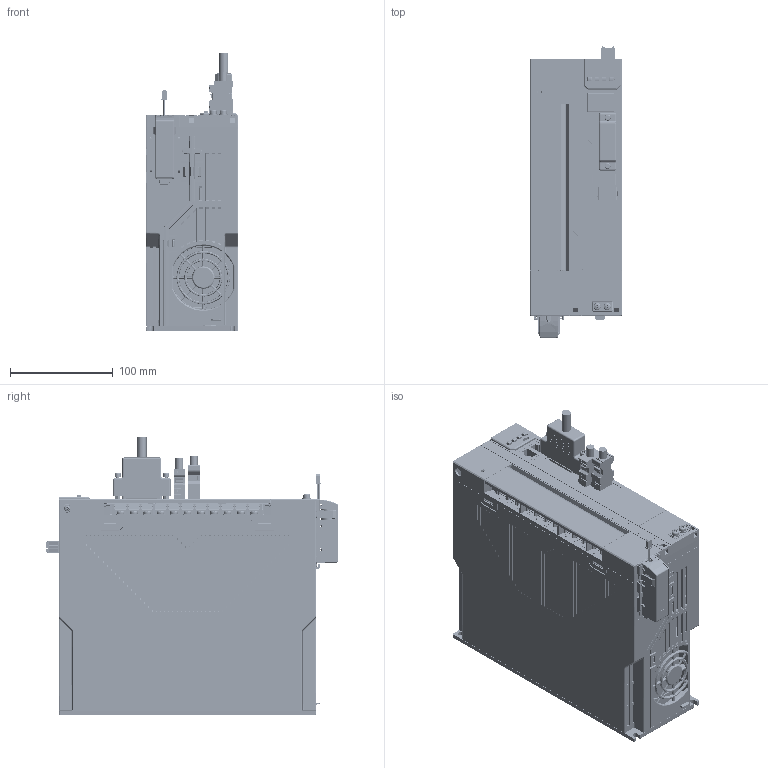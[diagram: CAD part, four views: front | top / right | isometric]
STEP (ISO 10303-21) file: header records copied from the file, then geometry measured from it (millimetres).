
FILE_DESCRIPTION((''),'2;1');
FILE_NAME('SD900-300D-PA_ASM','2025-09-28T',('v5489'),(''),'CREO PARAMETRIC BY PTC INC, 2018360','CREO PARAMETRIC BY PTC INC, 2018360','');
FILE_SCHEMA(('AP203_CONFIGURATION_CONTROLLED_3D_DESIGN_OF_MECHANICAL_PARTS_AND_ASSEMBLIES_MIM_LF { 1 0 10303 403 2 1 2 }'));
Products named in the file (18): 00-SD900-300D-PA_ASM_1_1; 00-SD900-300D-PA_ASM_1_2; 00-SD900-300D-PA_ASM_1_3; 00-SD900-300D-PA_ASM_1_ASM; SD900-DCH-P001_284; SD900-DCH-N001_98; 14505_50_1; 14505_50_2; 14505_50_3; 14505_50_ASM; S6-C4A_31; SD900-DCH-P_ASM_535_ASM; SD900-DCH-P_ASM_ASM; 5006540609; 1394SM_10P_; DB-44-1; 15EDGKNH-3_5-04P-14-00A_H_; SD900-300D-PA_ASM
Assembly tree (17 placements, depth 5):
  SD900-300D-PA_ASM
    00-SD900-300D-PA_ASM_1_ASM
      00-SD900-300D-PA_ASM_1_1
      00-SD900-300D-PA_ASM_1_2
      00-SD900-300D-PA_ASM_1_3
    SD900-DCH-P_ASM_ASM
      SD900-DCH-P_ASM_535_ASM
        SD900-DCH-P001_284
        SD900-DCH-N001_98
        14505_50_ASM
          14505_50_1
          14505_50_2
          14505_50_3
        S6-C4A_31
    5006540609
    1394SM_10P_
    DB-44-1
    15EDGKNH-3_5-04P-14-00A_H_
Bounding box: 90 x 284 x 270.45 mm (x, y, z)
Volume: 60150.7 mm3; surface area: 435907.7 mm2
Topology: 22 solids, 44 shells, 14736 faces, 41559 edges, 27053 vertices
Faces by surface type: plane 8661, cylinder 3686, bspline 866, cone 526, extrusion 451, torus 357, sphere 189
Entity records: 651073 total; most frequent: CARTESIAN_POINT 188426, ORIENTED_EDGE 82346, DIRECTION 69326, EDGE_CURVE 41252, VECTOR 27406, LINE 26955, VERTEX_POINT 26953, AXIS2_PLACEMENT_3D 20960
